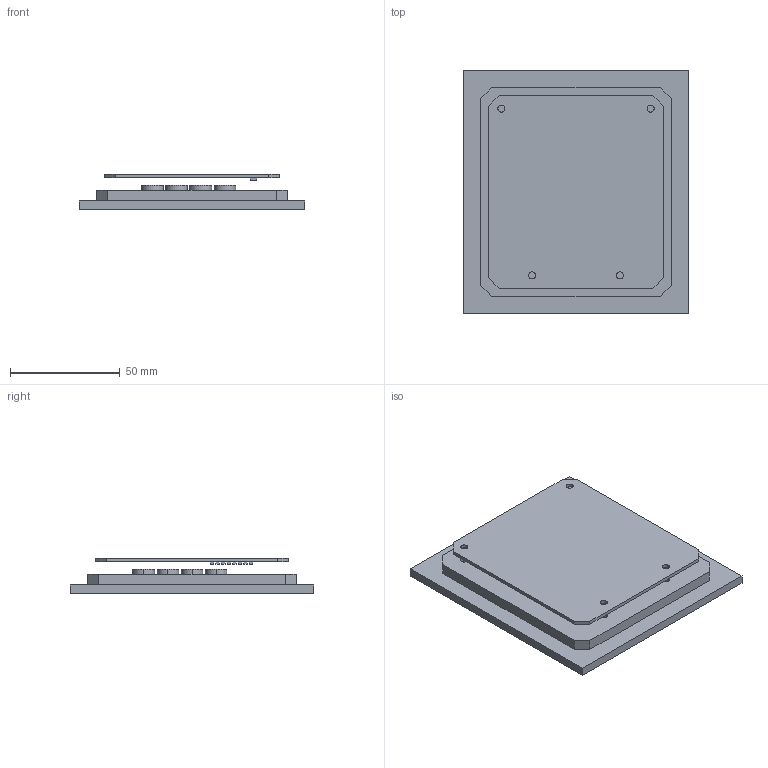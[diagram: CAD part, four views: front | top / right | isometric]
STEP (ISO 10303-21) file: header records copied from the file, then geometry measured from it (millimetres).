
FILE_DESCRIPTION (( 'STEP AP203' ), '1' );
FILE_NAME ('Array_jig_assembly.step', '2026-09-30T12:13:31', ( '' ), ( '' ), 'SwSTEP 2.0', 'SolidWorks 2025', '' );
FILE_SCHEMA (( 'CONFIG_CONTROL_DESIGN' ));
Length unit declared in the file: millimetre
Products named in the file (6): REF_pcb_80x88; Array_jig_assembly; 01_array_alignment_jig; REF_16_emitters; REF_common_flat_datum; REF_top_resistor_envelopes
Assembly tree (5 placements, depth 2):
  Array_jig_assembly
    01_array_alignment_jig
    REF_common_flat_datum
    REF_16_emitters
    REF_top_resistor_envelopes
    REF_pcb_80x88
Bounding box: 103 x 111 x 16.2 mm (x, y, z)
Volume: 98775.2 mm3; surface area: 63387.7 mm2
Topology: 27 solids, 27 shells, 194 faces, 420 edges, 280 vertices
Faces by surface type: plane 114, cylinder 80
Entity records: 6012 total; most frequent: DIRECTION 984, CARTESIAN_POINT 902, ORIENTED_EDGE 840, EDGE_CURVE 420, AXIS2_PLACEMENT_3D 362, VERTEX_POINT 280, VECTOR 260, LINE 260
